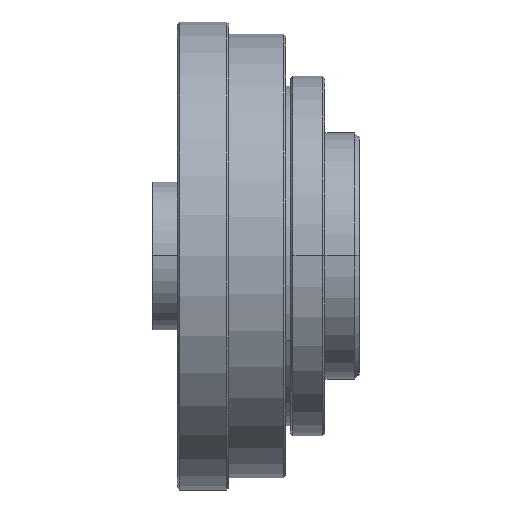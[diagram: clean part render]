
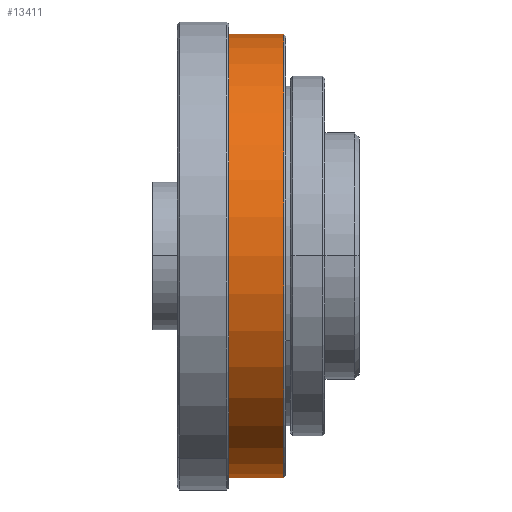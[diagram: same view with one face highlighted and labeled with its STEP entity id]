
A CAD part, top view. The second image highlights one B-rep face of the part: STEP entity #13411.
In plain terms, the highlighted cylindrical face has radius 45 mm (diameter 90 mm), a partial arc.
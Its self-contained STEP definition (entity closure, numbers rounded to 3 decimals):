
#2198 = CIRCLE ( 'NONE', #25465, 45. ) ;
#3063 = FACE_OUTER_BOUND ( 'NONE', #3634, .T. ) ;
#3320 = VERTEX_POINT ( 'NONE', #25482 ) ;
#3634 = EDGE_LOOP ( 'NONE', ( #29253, #42969, #42202, #8625 ) ) ;
#3906 = DIRECTION ( 'NONE',  ( 0., 0., 1. ) ) ;
#4299 = EDGE_CURVE ( 'NONE', #23675, #14721, #2198, .T. ) ;
#4546 = DIRECTION ( 'NONE',  ( -1., 0., 0. ) ) ;
#7021 = CARTESIAN_POINT ( 'NONE',  ( 0., 0., 0. ) ) ;
#8625 = ORIENTED_EDGE ( 'NONE', *, *, #24655, .F. ) ;
#10889 = DIRECTION ( 'NONE',  ( -1., 0., 0. ) ) ;
#11248 = DIRECTION ( 'NONE',  ( 0., 0., 1. ) ) ;
#12130 = CARTESIAN_POINT ( 'NONE',  ( 0., 0., 45. ) ) ;
#12664 = VECTOR ( 'NONE', #41856, 1000. ) ;
#13411 = ADVANCED_FACE ( 'NONE', ( #3063 ), #32660, .T. ) ;
#13469 = CARTESIAN_POINT ( 'NONE',  ( 0., 0., -45. ) ) ;
#13477 = CARTESIAN_POINT ( 'NONE',  ( 0.4, 0., 45. ) ) ;
#14721 = VERTEX_POINT ( 'NONE', #18347 ) ;
#17282 = VERTEX_POINT ( 'NONE', #13477 ) ;
#17400 = AXIS2_PLACEMENT_3D ( 'NONE', #30804, #4546, #11248 ) ;
#18347 = CARTESIAN_POINT ( 'NONE',  ( 13.6, 0., -45. ) ) ;
#21203 = AXIS2_PLACEMENT_3D ( 'NONE', #7021, #23576, #40533 ) ;
#23576 = DIRECTION ( 'NONE',  ( -1., 0., 0. ) ) ;
#23675 = VERTEX_POINT ( 'NONE', #32359 ) ;
#24655 = EDGE_CURVE ( 'NONE', #23675, #17282, #34961, .T. ) ;
#25308 = LINE ( 'NONE', #13469, #41978 ) ;
#25465 = AXIS2_PLACEMENT_3D ( 'NONE', #37266, #10889, #3906 ) ;
#25482 = CARTESIAN_POINT ( 'NONE',  ( 0.4, 0., -45. ) ) ;
#28426 = CIRCLE ( 'NONE', #17400, 45. ) ;
#29253 = ORIENTED_EDGE ( 'NONE', *, *, #4299, .T. ) ;
#30783 = EDGE_CURVE ( 'NONE', #14721, #3320, #25308, .T. ) ;
#30804 = CARTESIAN_POINT ( 'NONE',  ( 0.4, 0., 0. ) ) ;
#32359 = CARTESIAN_POINT ( 'NONE',  ( 13.6, 0., 45. ) ) ;
#32660 = CYLINDRICAL_SURFACE ( 'NONE', #21203, 45. ) ;
#34961 = LINE ( 'NONE', #12130, #12664 ) ;
#37266 = CARTESIAN_POINT ( 'NONE',  ( 13.6, 0., 0. ) ) ;
#40011 = DIRECTION ( 'NONE',  ( -1., 0., 0. ) ) ;
#40533 = DIRECTION ( 'NONE',  ( 0., 0., 1. ) ) ;
#41856 = DIRECTION ( 'NONE',  ( -1., 0., 0. ) ) ;
#41978 = VECTOR ( 'NONE', #40011, 1000. ) ;
#42202 = ORIENTED_EDGE ( 'NONE', *, *, #42409, .F. ) ;
#42409 = EDGE_CURVE ( 'NONE', #17282, #3320, #28426, .T. ) ;
#42969 = ORIENTED_EDGE ( 'NONE', *, *, #30783, .T. ) ;
